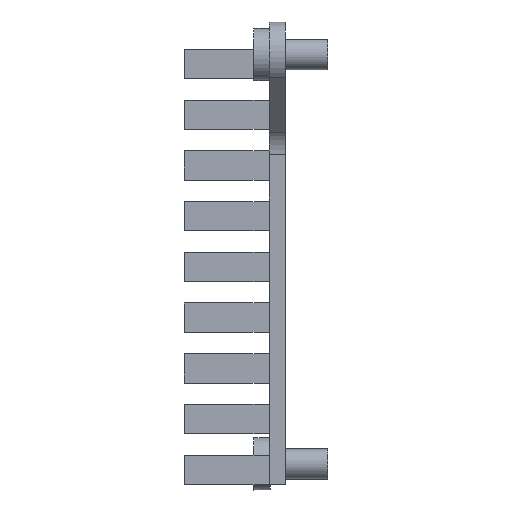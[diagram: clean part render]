
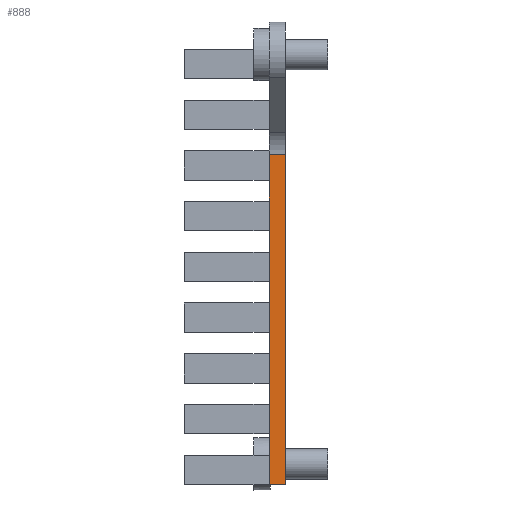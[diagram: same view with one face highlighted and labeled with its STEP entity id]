
A CAD part, left-side view. The second image highlights one B-rep face of the part: STEP entity #888.
In plain terms, the highlighted planar face has unit normal (-1, 0, 0).
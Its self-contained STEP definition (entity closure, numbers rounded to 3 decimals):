
#24 = VERTEX_POINT('',#25);
#25 = CARTESIAN_POINT('',(-16.516,-8.004,5.999
    ));
#33 = PLANE('',#34);
#34 = AXIS2_PLACEMENT_3D('',#35,#36,#37);
#35 = CARTESIAN_POINT('',(-120.161,-8.004,
    152.611));
#36 = DIRECTION('',(0.,1.,0.));
#37 = DIRECTION('',(0.,-0.,1.));
#45 = CYLINDRICAL_SURFACE('',#46,2.982);
#46 = AXIS2_PLACEMENT_3D('',#47,#48,#49);
#47 = CARTESIAN_POINT('',(-19.498,-6.504,5.999
    ));
#48 = DIRECTION('',(-0.,-1.,-0.));
#49 = DIRECTION('',(0.,0.,-1.));
#648 = VERTEX_POINT('',#649);
#649 = CARTESIAN_POINT('',(-16.516,-8.004,
    -24.287));
#663 = PLANE('',#664);
#664 = AXIS2_PLACEMENT_3D('',#665,#666,#667);
#665 = CARTESIAN_POINT('',(-120.161,-6.504,
    -24.287));
#666 = DIRECTION('',(0.,0.,1.));
#667 = DIRECTION('',(1.,0.,-0.));
#675 = EDGE_CURVE('',#24,#648,#676,.T.);
#676 = SURFACE_CURVE('',#677,(#681,#688),.PCURVE_S1.);
#677 = LINE('',#678,#679);
#678 = CARTESIAN_POINT('',(-16.516,-8.004,
    152.611));
#679 = VECTOR('',#680,1.);
#680 = DIRECTION('',(0.,0.,-1.));
#681 = PCURVE('',#33,#682);
#682 = DEFINITIONAL_REPRESENTATION('',(#683),#687);
#683 = LINE('',#684,#685);
#684 = CARTESIAN_POINT('',(0.,103.645));
#685 = VECTOR('',#686,1.);
#686 = DIRECTION('',(-1.,0.));
#687 = ( GEOMETRIC_REPRESENTATION_CONTEXT(2)
PARAMETRIC_REPRESENTATION_CONTEXT() REPRESENTATION_CONTEXT('2D SPACE',''
  ) );
#688 = PCURVE('',#689,#694);
#689 = PLANE('',#690);
#690 = AXIS2_PLACEMENT_3D('',#691,#692,#693);
#691 = CARTESIAN_POINT('',(-16.516,-6.504,
    152.611));
#692 = DIRECTION('',(-1.,0.,0.));
#693 = DIRECTION('',(0.,0.,1.));
#694 = DEFINITIONAL_REPRESENTATION('',(#695),#699);
#695 = LINE('',#696,#697);
#696 = CARTESIAN_POINT('',(0.,-1.5));
#697 = VECTOR('',#698,1.);
#698 = DIRECTION('',(-1.,0.));
#699 = ( GEOMETRIC_REPRESENTATION_CONTEXT(2)
PARAMETRIC_REPRESENTATION_CONTEXT() REPRESENTATION_CONTEXT('2D SPACE',''
  ) );
#766 = EDGE_CURVE('',#767,#24,#769,.T.);
#767 = VERTEX_POINT('',#768);
#768 = CARTESIAN_POINT('',(-16.516,-6.504,
    5.999));
#769 = SURFACE_CURVE('',#770,(#774,#781),.PCURVE_S1.);
#770 = LINE('',#771,#772);
#771 = CARTESIAN_POINT('',(-16.516,-6.504,
    5.999));
#772 = VECTOR('',#773,1.);
#773 = DIRECTION('',(-0.,-1.,-0.));
#774 = PCURVE('',#45,#775);
#775 = DEFINITIONAL_REPRESENTATION('',(#776),#780);
#776 = LINE('',#777,#778);
#777 = CARTESIAN_POINT('',(1.571,0.));
#778 = VECTOR('',#779,1.);
#779 = DIRECTION('',(0.,1.));
#780 = ( GEOMETRIC_REPRESENTATION_CONTEXT(2)
PARAMETRIC_REPRESENTATION_CONTEXT() REPRESENTATION_CONTEXT('2D SPACE',''
  ) );
#781 = PCURVE('',#689,#782);
#782 = DEFINITIONAL_REPRESENTATION('',(#783),#787);
#783 = LINE('',#784,#785);
#784 = CARTESIAN_POINT('',(-146.612,0.));
#785 = VECTOR('',#786,1.);
#786 = DIRECTION('',(0.,-1.));
#787 = ( GEOMETRIC_REPRESENTATION_CONTEXT(2)
PARAMETRIC_REPRESENTATION_CONTEXT() REPRESENTATION_CONTEXT('2D SPACE',''
  ) );
#806 = PLANE('',#807);
#807 = AXIS2_PLACEMENT_3D('',#808,#809,#810);
#808 = CARTESIAN_POINT('',(-23.127,-6.504,
    -24.387));
#809 = DIRECTION('',(-0.,1.,0.));
#810 = DIRECTION('',(0.,0.,1.));
#888 = ADVANCED_FACE('',(#889),#689,.T.);
#889 = FACE_BOUND('',#890,.T.);
#890 = EDGE_LOOP('',(#891,#892,#893,#916));
#891 = ORIENTED_EDGE('',*,*,#675,.F.);
#892 = ORIENTED_EDGE('',*,*,#766,.F.);
#893 = ORIENTED_EDGE('',*,*,#894,.T.);
#894 = EDGE_CURVE('',#767,#895,#897,.T.);
#895 = VERTEX_POINT('',#896);
#896 = CARTESIAN_POINT('',(-16.516,-6.504,
    -24.287));
#897 = SURFACE_CURVE('',#898,(#902,#909),.PCURVE_S1.);
#898 = LINE('',#899,#900);
#899 = CARTESIAN_POINT('',(-16.516,-6.504,
    152.611));
#900 = VECTOR('',#901,1.);
#901 = DIRECTION('',(0.,0.,-1.));
#902 = PCURVE('',#689,#903);
#903 = DEFINITIONAL_REPRESENTATION('',(#904),#908);
#904 = LINE('',#905,#906);
#905 = CARTESIAN_POINT('',(0.,0.));
#906 = VECTOR('',#907,1.);
#907 = DIRECTION('',(-1.,0.));
#908 = ( GEOMETRIC_REPRESENTATION_CONTEXT(2)
PARAMETRIC_REPRESENTATION_CONTEXT() REPRESENTATION_CONTEXT('2D SPACE',''
  ) );
#909 = PCURVE('',#806,#910);
#910 = DEFINITIONAL_REPRESENTATION('',(#911),#915);
#911 = LINE('',#912,#913);
#912 = CARTESIAN_POINT('',(176.998,6.611));
#913 = VECTOR('',#914,1.);
#914 = DIRECTION('',(-1.,0.));
#915 = ( GEOMETRIC_REPRESENTATION_CONTEXT(2)
PARAMETRIC_REPRESENTATION_CONTEXT() REPRESENTATION_CONTEXT('2D SPACE',''
  ) );
#916 = ORIENTED_EDGE('',*,*,#917,.T.);
#917 = EDGE_CURVE('',#895,#648,#918,.T.);
#918 = SURFACE_CURVE('',#919,(#923,#930),.PCURVE_S1.);
#919 = LINE('',#920,#921);
#920 = CARTESIAN_POINT('',(-16.516,-6.504,
    -24.287));
#921 = VECTOR('',#922,1.);
#922 = DIRECTION('',(-0.,-1.,-0.));
#923 = PCURVE('',#689,#924);
#924 = DEFINITIONAL_REPRESENTATION('',(#925),#929);
#925 = LINE('',#926,#927);
#926 = CARTESIAN_POINT('',(-176.898,0.));
#927 = VECTOR('',#928,1.);
#928 = DIRECTION('',(0.,-1.));
#929 = ( GEOMETRIC_REPRESENTATION_CONTEXT(2)
PARAMETRIC_REPRESENTATION_CONTEXT() REPRESENTATION_CONTEXT('2D SPACE',''
  ) );
#930 = PCURVE('',#663,#931);
#931 = DEFINITIONAL_REPRESENTATION('',(#932),#936);
#932 = LINE('',#933,#934);
#933 = CARTESIAN_POINT('',(103.645,0.));
#934 = VECTOR('',#935,1.);
#935 = DIRECTION('',(0.,-1.));
#936 = ( GEOMETRIC_REPRESENTATION_CONTEXT(2)
PARAMETRIC_REPRESENTATION_CONTEXT() REPRESENTATION_CONTEXT('2D SPACE',''
  ) );
